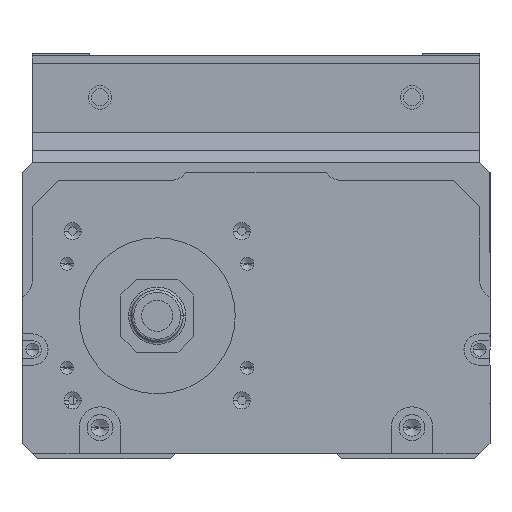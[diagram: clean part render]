
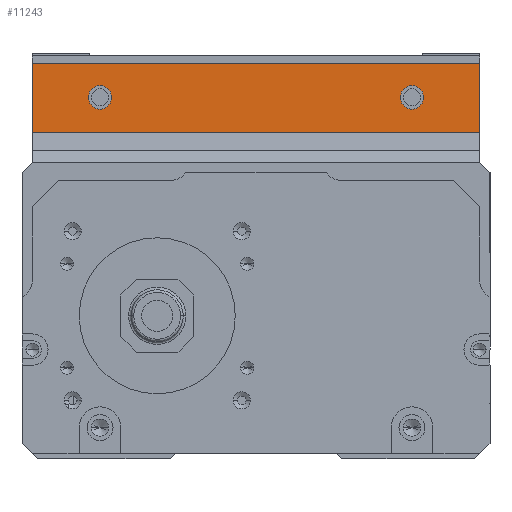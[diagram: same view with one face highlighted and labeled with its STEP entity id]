
A CAD part, front view. The second image highlights one B-rep face of the part: STEP entity #11243.
In plain terms, the highlighted planar face has unit normal (0, -1, 0).
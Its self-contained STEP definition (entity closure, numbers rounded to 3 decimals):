
#763 = EDGE_CURVE ( 'NONE', #14860, #5481, #9183, .T. ) ;
#800 = ORIENTED_EDGE ( 'NONE', *, *, #8893, .T. ) ;
#1297 = DIRECTION ( 'NONE',  ( 0., 0., -1. ) ) ;
#1407 = DIRECTION ( 'NONE',  ( 0., 1., 0. ) ) ;
#2083 = DIRECTION ( 'NONE',  ( 0., 0., -1. ) ) ;
#2221 = VECTOR ( 'NONE', #15750, 1000. ) ;
#2504 = CARTESIAN_POINT ( 'NONE',  ( 30., 78., -8. ) ) ;
#2592 = VERTEX_POINT ( 'NONE', #8952 ) ;
#2632 = DIRECTION ( 'NONE',  ( 0., 0., 1. ) ) ;
#2731 = CARTESIAN_POINT ( 'NONE',  ( 43., 78., -1.5 ) ) ;
#2905 = CIRCLE ( 'NONE', #10957, 2.25 ) ;
#3490 = ORIENTED_EDGE ( 'NONE', *, *, #12511, .T. ) ;
#4020 = ORIENTED_EDGE ( 'NONE', *, *, #7016, .T. ) ;
#4031 = DIRECTION ( 'NONE',  ( -1., 0., 0. ) ) ;
#4065 = CARTESIAN_POINT ( 'NONE',  ( 45., 78., -14.788 ) ) ;
#4400 = DIRECTION ( 'NONE',  ( 0., 0., 1. ) ) ;
#4430 = CARTESIAN_POINT ( 'NONE',  ( 30., 78., -5.75 ) ) ;
#4503 = DIRECTION ( 'NONE',  ( 0., 1., 0. ) ) ;
#4508 = CARTESIAN_POINT ( 'NONE',  ( -30., 78., -5.75 ) ) ;
#4558 = LINE ( 'NONE', #5788, #9997 ) ;
#4576 = VERTEX_POINT ( 'NONE', #15957 ) ;
#4613 = CARTESIAN_POINT ( 'NONE',  ( -30., 78., -8. ) ) ;
#4623 = DIRECTION ( 'NONE',  ( 0., 1., 0. ) ) ;
#4626 = CARTESIAN_POINT ( 'NONE',  ( 30., 78., -8. ) ) ;
#4638 = LINE ( 'NONE', #4065, #10081 ) ;
#4876 = EDGE_CURVE ( 'NONE', #6664, #10634, #2905, .T. ) ;
#5243 = DIRECTION ( 'NONE',  ( 0., 0., -1. ) ) ;
#5248 = DIRECTION ( 'NONE',  ( 0., -1., 0. ) ) ;
#5293 = CARTESIAN_POINT ( 'NONE',  ( 45., 78., -1.5 ) ) ;
#5301 = FACE_BOUND ( 'NONE', #12685, .T. ) ;
#5326 = PLANE ( 'NONE',  #15844 ) ;
#5481 = VERTEX_POINT ( 'NONE', #13567 ) ;
#5686 = DIRECTION ( 'NONE',  ( -1., 0., 0. ) ) ;
#5788 = CARTESIAN_POINT ( 'NONE',  ( 45., 78., -1.5 ) ) ;
#5876 = AXIS2_PLACEMENT_3D ( 'NONE', #4613, #4503, #4400 ) ;
#5898 = EDGE_CURVE ( 'NONE', #4576, #13955, #4558, .T. ) ;
#5960 = EDGE_CURVE ( 'NONE', #10548, #2592, #4638, .T. ) ;
#6364 = AXIS2_PLACEMENT_3D ( 'NONE', #2504, #1407, #1297 ) ;
#6664 = VERTEX_POINT ( 'NONE', #4430 ) ;
#7016 = EDGE_CURVE ( 'NONE', #10548, #4576, #7328, .T. ) ;
#7230 = EDGE_CURVE ( 'NONE', #13955, #2592, #12756, .T. ) ;
#7328 = LINE ( 'NONE', #2731, #12622 ) ;
#7947 = ORIENTED_EDGE ( 'NONE', *, *, #5960, .F. ) ;
#8893 = EDGE_CURVE ( 'NONE', #10634, #6664, #11473, .T. ) ;
#8952 = CARTESIAN_POINT ( 'NONE',  ( -43., 78., -14.788 ) ) ;
#9183 = CIRCLE ( 'NONE', #10767, 2.25 ) ;
#9523 = CARTESIAN_POINT ( 'NONE',  ( -43., 78., -1.5 ) ) ;
#9997 = VECTOR ( 'NONE', #5686, 1000. ) ;
#10081 = VECTOR ( 'NONE', #4031, 1000. ) ;
#10534 = ORIENTED_EDGE ( 'NONE', *, *, #4876, .T. ) ;
#10548 = VERTEX_POINT ( 'NONE', #12359 ) ;
#10634 = VERTEX_POINT ( 'NONE', #11470 ) ;
#10725 = FACE_OUTER_BOUND ( 'NONE', #13683, .T. ) ;
#10767 = AXIS2_PLACEMENT_3D ( 'NONE', #14980, #14938, #14909 ) ;
#10957 = AXIS2_PLACEMENT_3D ( 'NONE', #4626, #4623, #2083 ) ;
#11243 = ADVANCED_FACE ( 'NONE', ( #15886, #5301, #10725 ), #5326, .T. ) ;
#11279 = ORIENTED_EDGE ( 'NONE', *, *, #763, .T. ) ;
#11470 = CARTESIAN_POINT ( 'NONE',  ( 30., 78., -10.25 ) ) ;
#11473 = CIRCLE ( 'NONE', #6364, 2.25 ) ;
#12359 = CARTESIAN_POINT ( 'NONE',  ( 43., 78., -14.788 ) ) ;
#12511 = EDGE_CURVE ( 'NONE', #5481, #14860, #12842, .T. ) ;
#12565 = ORIENTED_EDGE ( 'NONE', *, *, #5898, .T. ) ;
#12622 = VECTOR ( 'NONE', #2632, 1000. ) ;
#12685 = EDGE_LOOP ( 'NONE', ( #800, #10534 ) ) ;
#12756 = LINE ( 'NONE', #15777, #2221 ) ;
#12842 = CIRCLE ( 'NONE', #5876, 2.25 ) ;
#13249 = ORIENTED_EDGE ( 'NONE', *, *, #7230, .T. ) ;
#13567 = CARTESIAN_POINT ( 'NONE',  ( -30., 78., -10.25 ) ) ;
#13683 = EDGE_LOOP ( 'NONE', ( #7947, #4020, #12565, #13249 ) ) ;
#13955 = VERTEX_POINT ( 'NONE', #9523 ) ;
#14860 = VERTEX_POINT ( 'NONE', #4508 ) ;
#14909 = DIRECTION ( 'NONE',  ( 0., 0., 1. ) ) ;
#14938 = DIRECTION ( 'NONE',  ( 0., 1., 0. ) ) ;
#14980 = CARTESIAN_POINT ( 'NONE',  ( -30., 78., -8. ) ) ;
#15026 = EDGE_LOOP ( 'NONE', ( #3490, #11279 ) ) ;
#15750 = DIRECTION ( 'NONE',  ( 0., 0., -1. ) ) ;
#15777 = CARTESIAN_POINT ( 'NONE',  ( -43., 78., -1.5 ) ) ;
#15844 = AXIS2_PLACEMENT_3D ( 'NONE', #5293, #5248, #5243 ) ;
#15886 = FACE_BOUND ( 'NONE', #15026, .T. ) ;
#15957 = CARTESIAN_POINT ( 'NONE',  ( 43., 78., -1.5 ) ) ;
